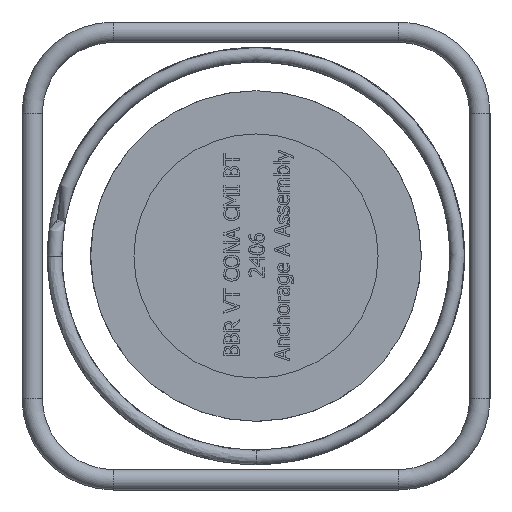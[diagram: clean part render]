
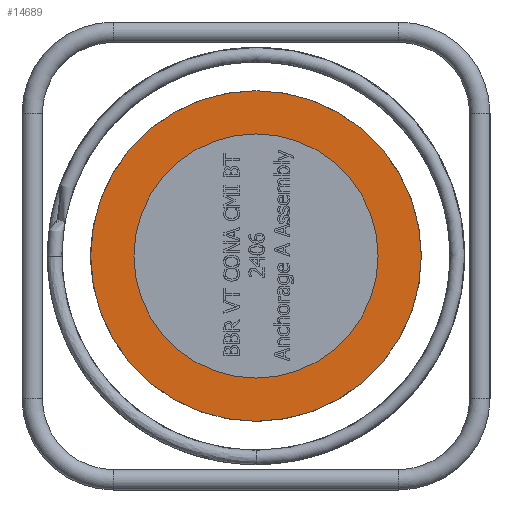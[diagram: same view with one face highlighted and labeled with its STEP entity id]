
A CAD part, left-side view. The second image highlights one B-rep face of the part: STEP entity #14689.
In plain terms, the highlighted planar face has unit normal (-1, 0, 0).
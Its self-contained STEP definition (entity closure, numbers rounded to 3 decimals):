
#90=FACE_BOUND('',#5093,.T.);
#1311=PLANE('',#15242);
#4253=FACE_OUTER_BOUND('',#5092,.T.);
#5092=EDGE_LOOP('',(#12340));
#5093=EDGE_LOOP('',(#12341));
#5295=CIRCLE('',#15243,162.5);
#5296=CIRCLE('',#15244,120.);
#6711=VERTEX_POINT('',#25539);
#6712=VERTEX_POINT('',#25541);
#8618=EDGE_CURVE('',#6711,#6711,#5295,.T.);
#8619=EDGE_CURVE('',#6712,#6712,#5296,.T.);
#12340=ORIENTED_EDGE('',*,*,#8618,.T.);
#12341=ORIENTED_EDGE('',*,*,#8619,.F.);
#14689=ADVANCED_FACE('',(#4253,#90),#1311,.T.);
#15242=AXIS2_PLACEMENT_3D('',#25538,#17482,#17483);
#15243=AXIS2_PLACEMENT_3D('',#25540,#17484,#17485);
#15244=AXIS2_PLACEMENT_3D('',#25542,#17486,#17487);
#17482=DIRECTION('center_axis',(-1.,0.,0.));
#17483=DIRECTION('ref_axis',(0.,-1.,0.));
#17484=DIRECTION('center_axis',(-1.,0.,0.));
#17485=DIRECTION('ref_axis',(0.,0.,
-1.));
#17486=DIRECTION('center_axis',(-1.,0.,0.));
#17487=DIRECTION('ref_axis',(0.,-1.,0.));
#25538=CARTESIAN_POINT('Origin',(-227.,0.,
-131.125));
#25539=CARTESIAN_POINT('',(-227.,0.,162.5));
#25540=CARTESIAN_POINT('Origin',(-227.,0.,
0.));
#25541=CARTESIAN_POINT('',(-227.,120.,0.));
#25542=CARTESIAN_POINT('Origin',(-227.,0.,
0.));
